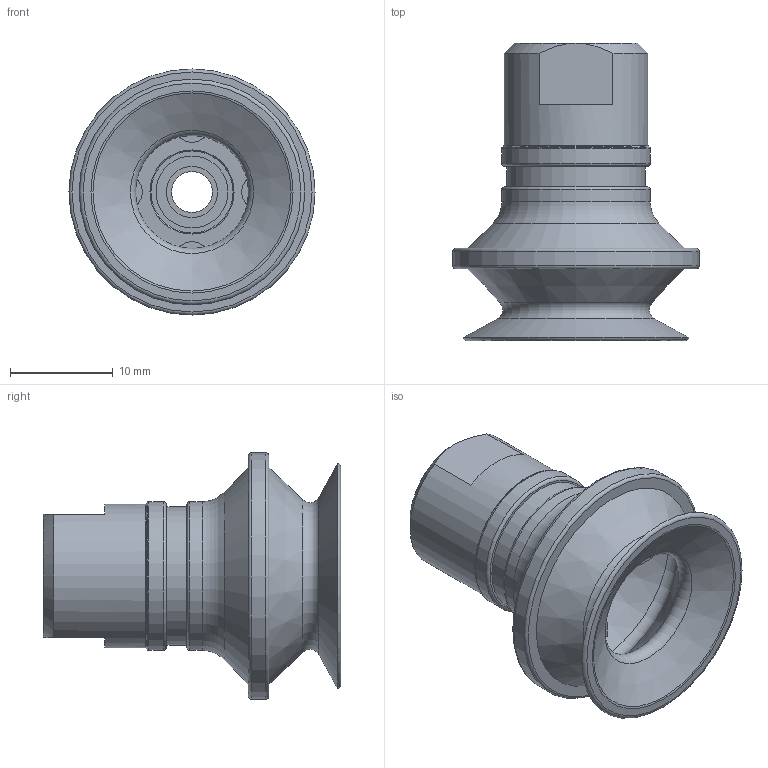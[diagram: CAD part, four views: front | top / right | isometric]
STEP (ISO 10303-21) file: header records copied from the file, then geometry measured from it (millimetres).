
FILE_DESCRIPTION (( 'STEP AP214' ), '1' );
FILE_NAME ('PSB20-G18FS.STEP', '2025-09-25T14:23:59', ( '' ), ( '' ), 'SwSTEP 2.0', 'SolidWorks 2025', '' );
FILE_SCHEMA (( 'AUTOMOTIVE_DESIGN' ));
Length unit declared in the file: inch
Products named in the file (3): 25020-21; PSB20; PSB20-G18FS
Assembly tree (2 placements, depth 2):
  PSB20-G18FS
    25020-21
    PSB20
Bounding box: 24 x 29 x 24 mm (x, y, z)
Volume: 3138.7 mm3; surface area: 4450.7 mm2
Topology: 3 solids, 3 shells, 94 faces, 191 edges, 118 vertices
Faces by surface type: plane 41, cylinder 22, torus 17, cone 14
Full cylindrical faces by diameter (mm): 4 x1, 5 x2, 6 x3, 6.5 x1, 7 x1, 8.2 x1, 8.6 x1, 9.5 x1, 9.915 x1, 10.6 x1, 13.535 x1, 14 x1, 14.5 x2, 24 x1
Entity records: 2375 total; most frequent: CARTESIAN_POINT 457, DIRECTION 400, ORIENTED_EDGE 284, AXIS2_PLACEMENT_3D 183, EDGE_LOOP 162, EDGE_CURVE 142, FACE_OUTER_BOUND 129, VERTEX_POINT 116
